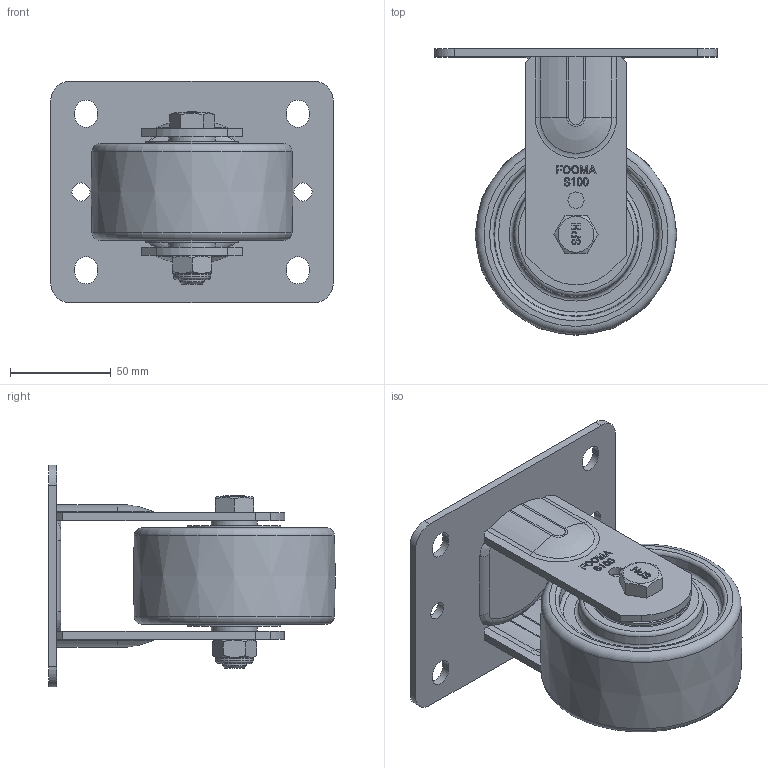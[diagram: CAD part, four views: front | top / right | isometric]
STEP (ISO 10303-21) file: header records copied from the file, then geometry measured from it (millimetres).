
FILE_DESCRIPTION(/* description */ (''),/* implementation_level */ '2;1');
FILE_NAME(/* name */ 'C:\Users\admin\Desktop\업무폴더\일자별 업무\2026\05월\05.15\변환\SPH-100-ARF-NYD-PEU.ipt.stp',/* time_stamp */ '2026-05-15T13:16:08+09:00',/* author */ ('admin'),/* organization */ ('지덕산업'),/* preprocessor_version */ 'ST-DEVELOPER v18.1',/* originating_system */ 'Autodesk Inventor 2021',/* authorisation */ '');
FILE_SCHEMA (('CONFIG_CONTROL_DESIGN'));
Length unit declared in the file: millimetre
Products named in the file (1): SPH-100-ARF-NYD-PEU
Bounding box: 140 x 142 x 110 mm (x, y, z)
Volume: 450837.7 mm3; surface area: 91862.9 mm2
Topology: 1 solids, 1 shells, 1010 faces, 2723 edges, 1804 vertices
Faces by surface type: plane 460, bspline 442, cylinder 57, torus 30, cone 17, sphere 4
Full cylindrical faces by diameter (mm): 8 x2, 9 x2, 12 x1, 18 x1, 18.5 x1, 46.001 x2, 47 x2
Entity records: 32554 total; most frequent: CARTESIAN_POINT 10008, ORIENTED_EDGE 5446, DIRECTION 3190, EDGE_CURVE 2723, VERTEX_POINT 1804, LINE 1598, VECTOR 1598, EDGE_LOOP 1117
